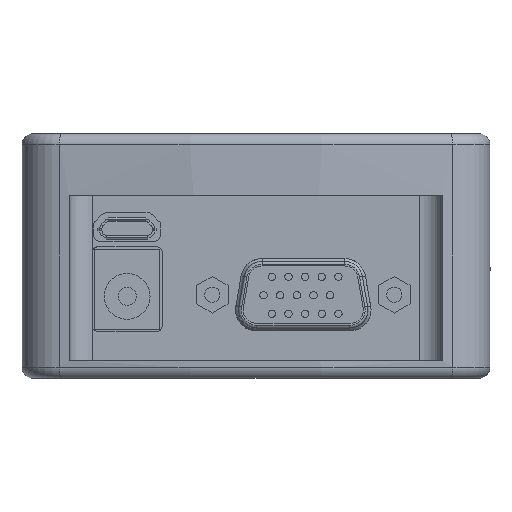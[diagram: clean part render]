
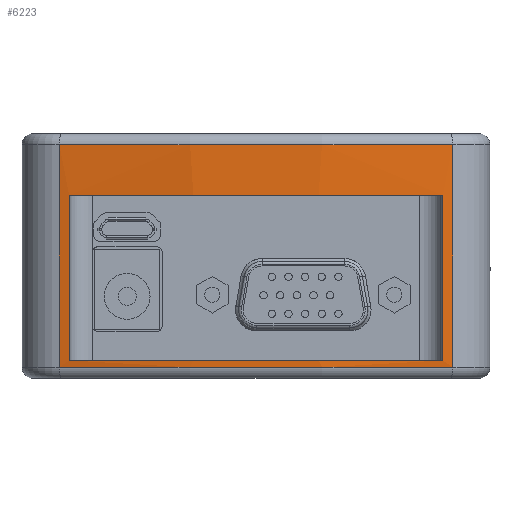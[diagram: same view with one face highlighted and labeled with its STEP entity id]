
A CAD part, front view. The second image highlights one B-rep face of the part: STEP entity #6223.
In plain terms, the highlighted cylindrical face has radius 139.7 mm (diameter 279.4 mm), a partial arc.
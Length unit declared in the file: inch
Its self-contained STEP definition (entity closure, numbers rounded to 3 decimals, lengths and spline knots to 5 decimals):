
#6127=CARTESIAN_POINT('',(76.96578,35.14,-38.83027));
#6128=VERTEX_POINT('',#6127);
#6137=CARTESIAN_POINT('',(76.96578,35.14,-40.03458));
#6138=VERTEX_POINT('',#6137);
#6146=CARTESIAN_POINT('',(76.96578,35.14,-40.03458));
#6147=DIRECTION('',(0.0,0.0,1.0));
#6148=VECTOR('',#6147,1.20431);
#6149=LINE('',#6146,#6148);
#6150=EDGE_CURVE('',#6138,#6128,#6149,.T.);
#6155=CARTESIAN_POINT('',(78.02911,40.53623,-39.46527));
#6156=DIRECTION('',(0.,0.,1.0));
#6157=DIRECTION('',(1.0,0.0,0.0));
#6158=AXIS2_PLACEMENT_3D('',#6155,#6156,#6157);
#6159=CYLINDRICAL_SURFACE('',#6158,5.5);
#6160=CARTESIAN_POINT('',(79.09245,35.14,-38.83027));
#6161=VERTEX_POINT('',#6160);
#6162=CARTESIAN_POINT('',(79.09245,35.14,-40.03458));
#6163=VERTEX_POINT('',#6162);
#6164=CARTESIAN_POINT('',(79.09245,35.14,-38.83027));
#6165=DIRECTION('',(0.0,0.0,-1.0));
#6166=VECTOR('',#6165,1.20431);
#6167=LINE('',#6164,#6166);
#6168=EDGE_CURVE('',#6161,#6163,#6167,.T.);
#6169=ORIENTED_EDGE('',*,*,#6168,.F.);
#6170=CARTESIAN_POINT('',(78.02911,40.53623,-38.83027));
#6171=DIRECTION('',(0.0,0.0,1.0));
#6172=DIRECTION('',(0.0,-1.0,0.0));
#6173=AXIS2_PLACEMENT_3D('',#6170,#6171,#6172);
#6174=CIRCLE('',#6173,5.5);
#6175=EDGE_CURVE('',#6128,#6161,#6174,.T.);
#6176=ORIENTED_EDGE('',*,*,#6175,.F.);
#6177=ORIENTED_EDGE('',*,*,#6150,.F.);
#6178=CARTESIAN_POINT('',(78.02911,40.53623,-40.03458));
#6179=DIRECTION('',(0.0,0.0,-1.0));
#6180=DIRECTION('',(0.0,-1.0,0.0));
#6181=AXIS2_PLACEMENT_3D('',#6178,#6179,#6180);
#6182=CIRCLE('',#6181,5.5);
#6183=EDGE_CURVE('',#6163,#6138,#6182,.T.);
#6184=ORIENTED_EDGE('',*,*,#6183,.F.);
#6185=EDGE_LOOP('',(#6169,#6176,#6177,#6184));
#6186=FACE_OUTER_BOUND('',#6185,.T.);
#6187=CARTESIAN_POINT('',(79.03911,35.12976,-39.10458));
#6188=VERTEX_POINT('',#6187);
#6189=CARTESIAN_POINT('',(79.03911,35.12976,-39.99684));
#6190=VERTEX_POINT('',#6189);
#6191=CARTESIAN_POINT('',(79.03911,35.12976,-39.10458));
#6192=DIRECTION('',(0.0,0.0,-1.0));
#6193=VECTOR('',#6192,0.89226);
#6194=LINE('',#6191,#6193);
#6195=EDGE_CURVE('',#6188,#6190,#6194,.T.);
#6196=ORIENTED_EDGE('',*,*,#6195,.T.);
#6197=CARTESIAN_POINT('',(77.01911,35.12976,-39.99684));
#6198=VERTEX_POINT('',#6197);
#6199=CARTESIAN_POINT('',(78.02911,40.53623,-39.99684));
#6200=DIRECTION('',(0.0,0.0,-1.0));
#6201=DIRECTION('',(-1.0,0.0,0.0));
#6202=AXIS2_PLACEMENT_3D('',#6199,#6200,#6201);
#6203=CIRCLE('',#6202,5.5);
#6204=EDGE_CURVE('',#6190,#6198,#6203,.T.);
#6205=ORIENTED_EDGE('',*,*,#6204,.T.);
#6206=CARTESIAN_POINT('',(77.01911,35.12976,-39.10458));
#6207=VERTEX_POINT('',#6206);
#6208=CARTESIAN_POINT('',(77.01911,35.12976,-39.99684));
#6209=DIRECTION('',(0.0,0.0,1.0));
#6210=VECTOR('',#6209,0.89226);
#6211=LINE('',#6208,#6210);
#6212=EDGE_CURVE('',#6198,#6207,#6211,.T.);
#6213=ORIENTED_EDGE('',*,*,#6212,.T.);
#6214=CARTESIAN_POINT('',(78.02911,40.53623,-39.10458));
#6215=DIRECTION('',(0.0,0.0,1.0));
#6216=DIRECTION('',(1.0,0.0,0.0));
#6217=AXIS2_PLACEMENT_3D('',#6214,#6215,#6216);
#6218=CIRCLE('',#6217,5.5);
#6219=EDGE_CURVE('',#6207,#6188,#6218,.T.);
#6220=ORIENTED_EDGE('',*,*,#6219,.T.);
#6221=EDGE_LOOP('',(#6196,#6205,#6213,#6220));
#6222=FACE_BOUND('',#6221,.T.);
#6223=ADVANCED_FACE('',(#6186,#6222),#6159,.T.);
